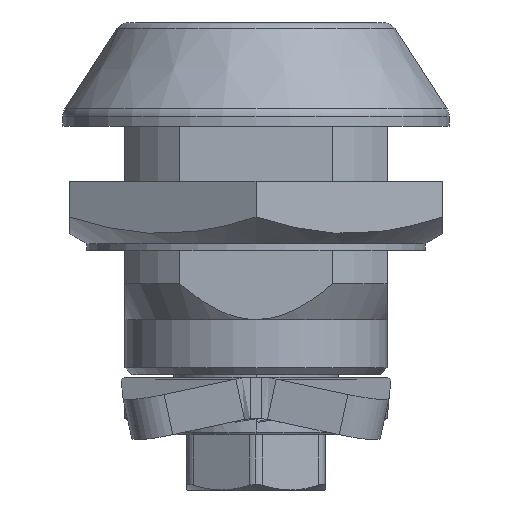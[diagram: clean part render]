
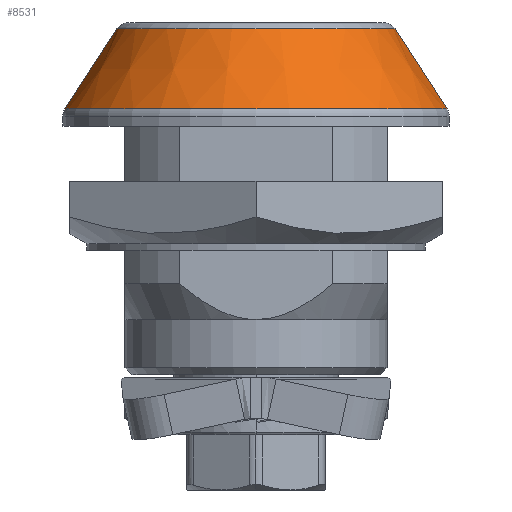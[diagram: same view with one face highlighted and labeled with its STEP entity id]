
A CAD part, left-side view. The second image highlights one B-rep face of the part: STEP entity #8531.
In plain terms, the highlighted conical face has half-angle 33.024 degrees and reference radius 9.775 mm.
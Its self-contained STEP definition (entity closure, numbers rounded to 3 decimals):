
#109 = VECTOR ( 'NONE', #7409, 1000. ) ;
#118 = LINE ( 'NONE', #7695, #109 ) ;
#185 = ORIENTED_EDGE ( 'NONE', *, *, #9692, .F. ) ;
#419 = CARTESIAN_POINT ( 'NONE',  ( 0., 7.5, 0. ) ) ;
#526 = DIRECTION ( 'NONE',  ( 0., -1., 0. ) ) ;
#627 = DIRECTION ( 'NONE',  ( 0., 0., -1. ) ) ;
#714 = VERTEX_POINT ( 'NONE', #8712 ) ;
#931 = CARTESIAN_POINT ( 'NONE',  ( 0., 1.249, 13.838 ) ) ;
#1300 = ORIENTED_EDGE ( 'NONE', *, *, #9125, .T. ) ;
#1938 = CIRCLE ( 'NONE', #3526, 13.838 ) ;
#2808 = CIRCLE ( 'NONE', #7742, 10.071 ) ;
#3063 = EDGE_LOOP ( 'NONE', ( #185, #8422, #5455, #1300 ) ) ;
#3084 = CARTESIAN_POINT ( 'NONE',  ( 0., 7.045, 10.071 ) ) ;
#3526 = AXIS2_PLACEMENT_3D ( 'NONE', #4510, #4488, #4477 ) ;
#3779 = CARTESIAN_POINT ( 'NONE',  ( 0., 7.5, -9.775 ) ) ;
#3798 = DIRECTION ( 'NONE',  ( 0., -0.838, -0.545 ) ) ;
#4027 = CONICAL_SURFACE ( 'NONE', #9167, 9.775, 0.576 ) ;
#4070 = FACE_OUTER_BOUND ( 'NONE', #3063, .T. ) ;
#4240 = VERTEX_POINT ( 'NONE', #3084 ) ;
#4477 = DIRECTION ( 'NONE',  ( 0., 0., 1. ) ) ;
#4488 = DIRECTION ( 'NONE',  ( 0., 1., 0. ) ) ;
#4510 = CARTESIAN_POINT ( 'NONE',  ( 0., 1.249, 0. ) ) ;
#4890 = VECTOR ( 'NONE', #3798, 1000. ) ;
#4912 = LINE ( 'NONE', #3779, #4890 ) ;
#5455 = ORIENTED_EDGE ( 'NONE', *, *, #8255, .T. ) ;
#6155 = DIRECTION ( 'NONE',  ( 0., 0., -1. ) ) ;
#7409 = DIRECTION ( 'NONE',  ( 0., -0.838, 0.545 ) ) ;
#7695 = CARTESIAN_POINT ( 'NONE',  ( 0., 7.5, 9.775 ) ) ;
#7742 = AXIS2_PLACEMENT_3D ( 'NONE', #9059, #9046, #6155 ) ;
#7937 = CARTESIAN_POINT ( 'NONE',  ( 0., 7.045, -10.071 ) ) ;
#8255 = EDGE_CURVE ( 'NONE', #8904, #714, #4912, .T. ) ;
#8422 = ORIENTED_EDGE ( 'NONE', *, *, #8810, .T. ) ;
#8531 = ADVANCED_FACE ( 'NONE', ( #4070 ), #4027, .T. ) ;
#8562 = VERTEX_POINT ( 'NONE', #931 ) ;
#8712 = CARTESIAN_POINT ( 'NONE',  ( 0., 1.249, -13.838 ) ) ;
#8810 = EDGE_CURVE ( 'NONE', #4240, #8904, #2808, .T. ) ;
#8904 = VERTEX_POINT ( 'NONE', #7937 ) ;
#9046 = DIRECTION ( 'NONE',  ( 0., -1., 0. ) ) ;
#9059 = CARTESIAN_POINT ( 'NONE',  ( 0., 7.045, 0. ) ) ;
#9125 = EDGE_CURVE ( 'NONE', #714, #8562, #1938, .T. ) ;
#9167 = AXIS2_PLACEMENT_3D ( 'NONE', #419, #526, #627 ) ;
#9692 = EDGE_CURVE ( 'NONE', #4240, #8562, #118, .T. ) ;
